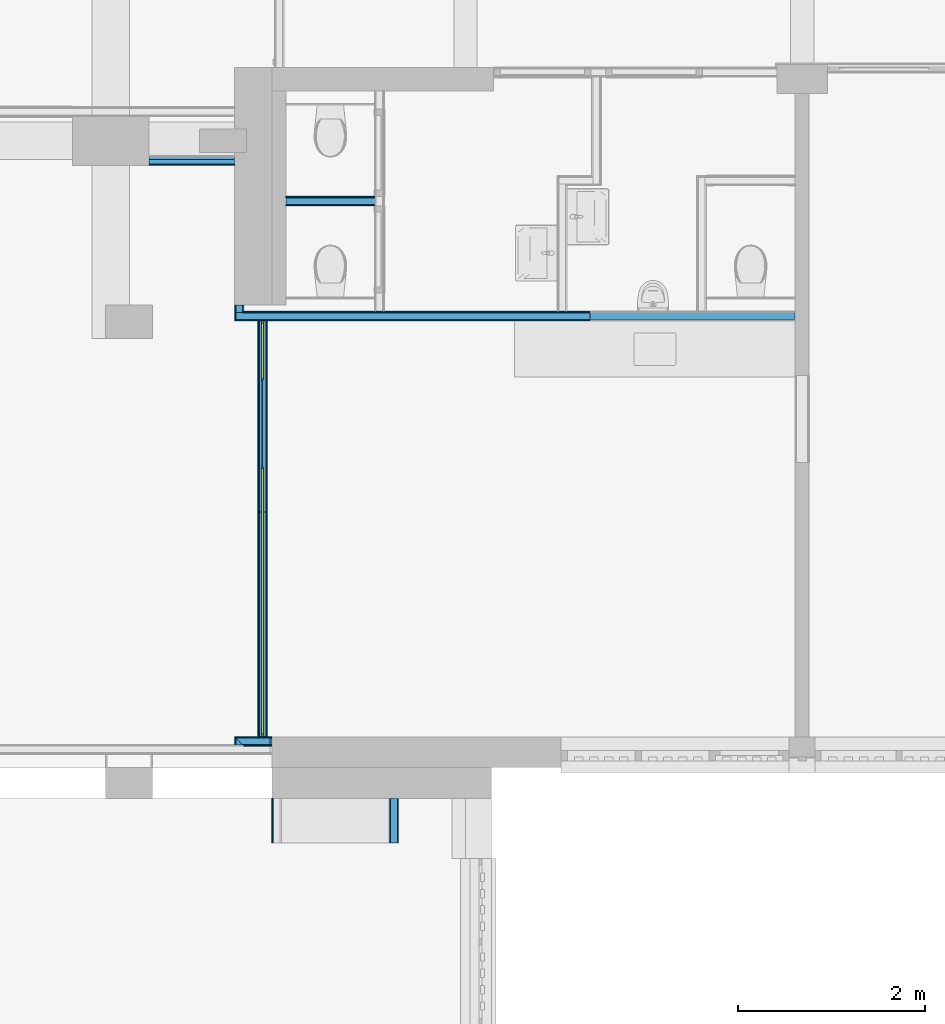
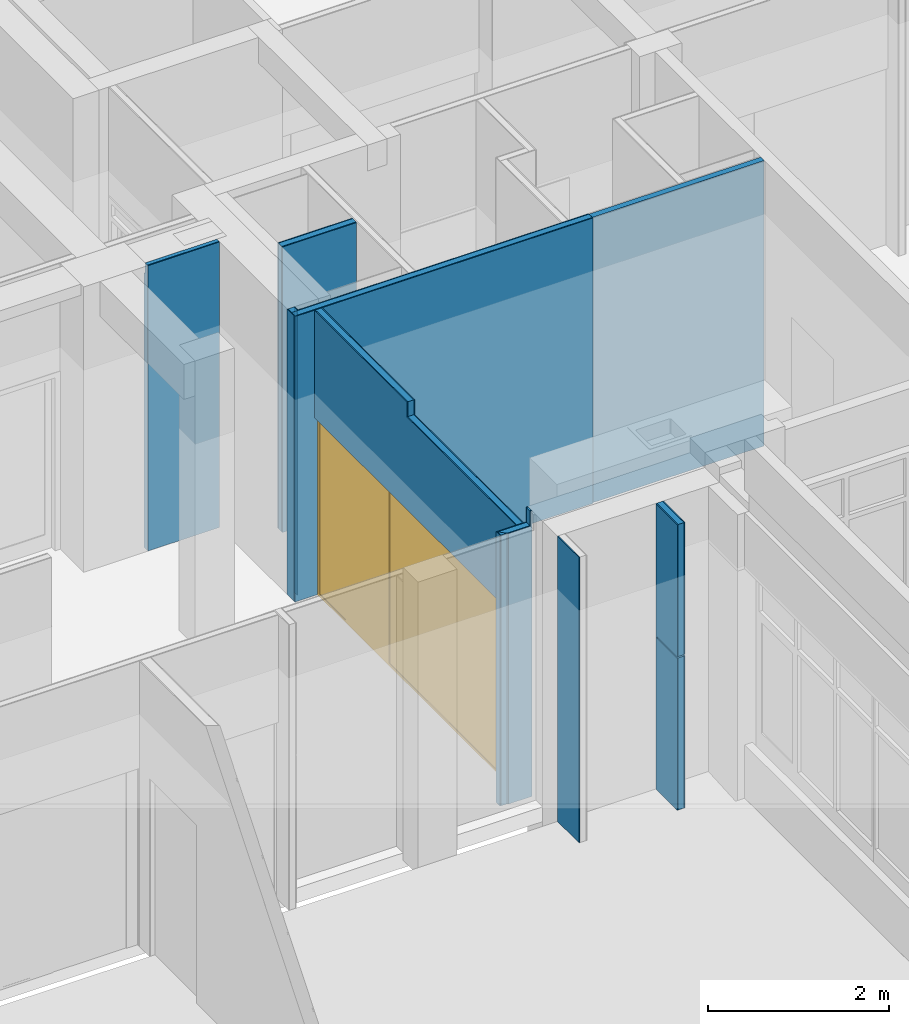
# One storey, part 104 of 135: 24 building element parts, 1 door, 1 opening, 10 elements without a shape of their own.
"""IFC2X3 building model written with IfcOpenShell, lengths in millimetres."""

from ifc_helpers import new_model, entity, si_unit, converted_unit, derived_unit, money_unit, direction, frame, origin_with_axes, place, context, subcontext, project, spatial, open_shell, faceted_brep, surface_model, material, type_object, element, fill, aggregate, save


model = new_model("IFC2X3")

# Units and contexts
model_context = context("Model", 3, precision=0.01, world=origin_with_axes(), true_north=direction((0.0, 1.0)))
body_context = subcontext(model_context, "Body", "Model", "MODEL_VIEW")
ifc_project = project(units=[si_unit("LENGTHUNIT", "METRE", prefix="MILLI"), si_unit("AREAUNIT", "SQUARE_METRE"), si_unit("VOLUMEUNIT", "CUBIC_METRE"), converted_unit("PLANEANGLEUNIT", "DEGREE", entity("IfcPlaneAngleMeasure", 0.0174532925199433), si_unit("PLANEANGLEUNIT", "RADIAN"), dimensions=[0, 0, 0, 0, 0, 0, 0]), money_unit("EUR"), converted_unit("TIMEUNIT", "Year", entity("IfcTimeMeasure", 31557600.0), si_unit("TIMEUNIT", "SECOND"), dimensions=[0, 0, 1, 0, 0, 0, 0]), si_unit("MASSUNIT", "GRAM", prefix="KILO"), si_unit("THERMODYNAMICTEMPERATUREUNIT", "DEGREE_CELSIUS"), si_unit("LUMINOUSINTENSITYUNIT", "LUMEN"), si_unit("ENERGYUNIT", "JOULE", prefix="MEGA"), derived_unit("THERMALCONDUCTANCEUNIT", [(si_unit("POWERUNIT", "WATT"), 1), (si_unit("LENGTHUNIT", "METRE"), -1), (si_unit("THERMODYNAMICTEMPERATUREUNIT", "KELVIN"), -1)]), derived_unit("SPECIFICHEATCAPACITYUNIT", [(si_unit("ENERGYUNIT", "JOULE"), 1), (si_unit("MASSUNIT", "GRAM", prefix="KILO"), -1), (si_unit("THERMODYNAMICTEMPERATUREUNIT", "KELVIN"), -1)]), derived_unit("MASSDENSITYUNIT", [(si_unit("MASSUNIT", "GRAM", prefix="KILO"), 1), (si_unit("VOLUMEUNIT", "CUBIC_METRE"), -1)])], contexts=[model_context])

# Site, building, storey
site_placement = place(None, origin_with_axes())
site = spatial("IfcSite", under=ifc_project, at=site_placement, Name="Site", CompositionType="ELEMENT")
building_placement = place(site_placement, origin_with_axes())
building = spatial("IfcBuilding", under=site, at=building_placement, Name="Naam gebouw", CompositionType="ELEMENT")
storey_placement = place(building_placement, origin_with_axes())
storey = spatial("IfcBuildingStorey", under=building, at=storey_placement, Name="Begane grond N", CompositionType="ELEMENT", Elevation=0.0)

# Door
door_style = type_object("IfcDoorStyle", Name="D1 zl2 27", ConstructionType="NOTDEFINED", OperationType="USERDEFINED", ParameterTakesPrecedence=False, Sizeable=False)
wall_5_placement = place(storey_placement, frame((30229.18709933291, 10990.91242510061, 0.0), z_axis=(0.0, 0.0, 1.0), x_axis=(0.0, 1.0, 0.0)))
opening_placement = place(wall_5_placement, frame((2225.0, 0.0, 0.0), z_axis=(0.0, 0.0, 1.0), x_axis=(1.0, 0.0, 0.0)))
door_placement = place(opening_placement, frame((2225.0, 0.0, 0.0), z_axis=(0.0, 0.0, 1.0), x_axis=(-1.0, 0.0, 0.0)))
door = element("IfcDoor", 1, at=door_placement, inside=storey, type_object=door_style, Name="_Merk-x", ObjectType="DOOR", OverallHeight=2400.0, OverallWidth=4450.0, context=body_context, shape_type="SurfaceModel", body=[
    faceted_brep([(4449.999999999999, 10.00000000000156, 0.0), (4449.999999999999, -9.99999999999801, 0.0), (4420.0, -9.99999999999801, 0.0), (4420.0, 10.00000000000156, 0.0), (4449.999999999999, 10.00000000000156, 2370.0), (4449.999999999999, -9.99999999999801, 2370.0), (4420.0, -9.99999999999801, 2370.0), (4420.0, -9.99999999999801, 30.0), (4420.0, 10.00000000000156, 30.0), (4420.0, 10.00000000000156, 2370.0)], [[[0, 1, 2, 3]], [[4, 5, 1, 0]], [[1, 5, 6, 7, 2]], [[3, 2, 7, 8]], [[0, 3, 8, 9, 4]], [[9, 6, 5, 4]], [[8, 7, 6, 9]]]),
    faceted_brep([(1550.000000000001, -8.999999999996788, 0.0), (1550.000000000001, -9.99999999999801, 0.0), (1550.000000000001, -9.99999999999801, 2370.0), (1550.000000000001, -8.999999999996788, 2370.0), (1567.0, -8.999999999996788, 0.0), (1567.0, 10.00000000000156, 0.0), (1580.0, 10.00000000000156, 0.0), (1580.0, -9.99999999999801, 0.0), (1580.0, -9.99999999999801, 30.00000000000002), (1580.0, -9.99999999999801, 2370.0), (1567.0, -8.999999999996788, 2370.0), (1580.0, 10.00000000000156, 2370.0), (1567.0, 10.00000000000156, 2370.0), (1580.0, 10.00000000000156, 30.00000000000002)], [[[0, 1, 2, 3]], [[4, 5, 6, 7, 1, 0]], [[7, 8, 9, 2, 1]], [[10, 3, 2, 9, 11, 12]], [[10, 4, 0, 3]], [[12, 5, 4, 10]], [[12, 11, 13, 6, 5]], [[6, 13, 8, 7]], [[13, 11, 9, 8]]]),
    faceted_brep([(4420.0, 10.00000000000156, 30.0), (4420.0, -9.99999999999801, 30.0), (4420.0, -9.99999999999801, 0.0), (4420.0, 10.00000000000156, 0.0), (1580.0, 10.00000000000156, 30.0), (1580.0, -9.99999999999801, 30.0), (1580.0, -9.99999999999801, 0.0), (1580.0, 10.00000000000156, 0.0)], [[[0, 1, 2, 3]], [[4, 5, 1, 0]], [[1, 5, 6, 2]], [[3, 2, 6, 7]], [[0, 3, 7, 4]], [[7, 6, 5, 4]]]),
    faceted_brep([(0.0, 10.00000000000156, 0.0), (0.0, -9.99999999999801, 0.0), (0.0, -9.99999999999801, 2370.0), (0.0, 10.00000000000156, 2370.0), (29.99999999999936, 10.00000000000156, 0.0), (29.99999999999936, -9.99999999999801, 0.0), (29.99999999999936, -9.99999999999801, 30.0), (29.99999999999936, -9.99999999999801, 2370.0), (29.99999999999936, 10.00000000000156, 2370.0), (29.99999999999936, 10.00000000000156, 30.0)], [[[0, 1, 2, 3]], [[4, 5, 1, 0]], [[1, 5, 6, 7, 2]], [[3, 2, 7, 8]], [[0, 3, 8, 9, 4]], [[9, 6, 5, 4]], [[8, 7, 6, 9]]]),
    faceted_brep([(633.0000000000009, -8.999999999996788, 2370.0), (633.0000000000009, 10.00000000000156, 2370.0), (620.000000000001, 10.00000000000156, 2370.0), (620.000000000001, -9.99999999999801, 2370.0), (650.0000000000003, -9.99999999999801, 2370.0), (650.0000000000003, -8.999999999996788, 2370.0), (633.0000000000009, -8.999999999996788, 0.0), (633.0000000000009, 10.00000000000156, 0.0), (620.000000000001, 10.00000000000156, 0.0), (620.000000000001, 10.00000000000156, 30.00000000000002), (620.000000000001, -9.99999999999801, 30.00000000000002), (650.0000000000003, -9.99999999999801, 0.0), (620.000000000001, -9.99999999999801, 0.0), (650.0000000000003, -8.999999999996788, 0.0)], [[[0, 1, 2, 3, 4, 5]], [[0, 6, 7, 1]], [[7, 8, 9, 2, 1]], [[2, 9, 10, 3]], [[11, 4, 3, 10, 12]], [[5, 4, 11, 13]], [[5, 13, 6, 0]], [[6, 13, 11, 12, 8, 7]], [[9, 8, 12, 10]]]),
    faceted_brep([(620.000000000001, 10.00000000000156, 30.0), (620.000000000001, -9.99999999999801, 30.0), (620.000000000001, -9.99999999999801, 0.0), (620.000000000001, 10.00000000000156, 0.0), (29.99999999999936, 10.00000000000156, 30.0), (29.99999999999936, -9.99999999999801, 30.0), (29.99999999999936, -9.99999999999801, 0.0), (29.99999999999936, 10.00000000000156, 0.0)], [[[0, 1, 2, 3]], [[4, 5, 1, 0]], [[1, 5, 6, 2]], [[3, 2, 6, 7]], [[0, 3, 7, 4]], [[7, 6, 5, 4]]]),
    faceted_brep([(1567.0, 10.00000000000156, 2387.0), (633.0000000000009, 10.00000000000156, 2387.0), (633.0000000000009, 10.00000000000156, 2370.0), (620.000000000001, 10.00000000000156, 2370.0), (29.99999999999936, 10.00000000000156, 2370.0), (0.0, 10.00000000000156, 2370.0), (0.0, 10.00000000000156, 2400.0), (4449.999999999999, 10.00000000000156, 2400.0), (4449.999999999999, 10.00000000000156, 2370.0), (4420.0, 10.00000000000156, 2370.0), (1580.0, 10.00000000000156, 2370.0), (1567.0, 10.00000000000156, 2370.0), (1567.0, -8.999999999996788, 2387.0), (633.0000000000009, -8.999999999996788, 2387.0), (633.0000000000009, -8.999999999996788, 2370.0), (650.0000000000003, -8.999999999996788, 2370.0), (650.0000000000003, -9.99999999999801, 2370.0), (620.000000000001, -9.99999999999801, 2370.0), (29.99999999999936, -9.99999999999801, 2370.0), (0.0, -9.99999999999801, 2370.0), (0.0, -9.99999999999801, 2400.0), (4449.999999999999, -9.99999999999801, 2400.0), (4449.999999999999, -9.99999999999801, 2370.0), (4420.0, -9.99999999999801, 2370.0), (1580.0, -9.99999999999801, 2370.0), (1567.0, -8.999999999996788, 2370.0), (1550.000000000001, -9.99999999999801, 2370.0)], [[[0, 1, 2, 3, 4, 5, 6, 7, 8, 9, 10, 11]], [[0, 12, 13, 1]], [[1, 13, 14, 2]], [[14, 15, 16, 17, 18, 4, 3, 2]], [[5, 4, 18, 19]], [[6, 5, 19, 20]], [[7, 6, 20, 21]], [[8, 7, 21, 22]], [[9, 8, 22, 23]], [[10, 9, 23, 24]], [[25, 11, 10, 24, 26, 16, 15]], [[11, 25, 12, 0]], [[14, 13, 12, 25, 15]], [[18, 17, 16, 26, 24, 23, 22, 21, 20, 19]]]),
    faceted_brep([(633.0000000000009, 1.000000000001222, 0.0), (1567.0, 1.000000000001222, 0.0), (1567.0, -8.999999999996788, 0.0), (633.0000000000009, -8.999999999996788, 0.0), (633.0000000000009, 1.000000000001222, 2387.0), (1567.0, 1.000000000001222, 2387.0), (1567.0, -9.000000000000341, 2387.0), (633.0000000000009, -8.999999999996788, 2387.0)], [[[0, 1, 2, 3]], [[0, 4, 5, 1]], [[1, 5, 6, 2]], [[3, 2, 6, 7]], [[4, 0, 3, 7]], [[5, 4, 7, 6]]]),
    surface_model("IfcShellBasedSurfaceModel", [(4420.0, 9.000000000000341, 30.0), (1580.0, 9.000000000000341, 30.0), (1580.0, 9.000000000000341, 2370.0), (4420.0, 9.000000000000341, 2370.0)], [open_shell([[[0, 1, 2, 3]]])]),
    surface_model("IfcShellBasedSurfaceModel", [(4420.0, 1.000000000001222, 30.0), (4420.0, 1.000000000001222, 2370.0), (1580.0, 1.000000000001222, 2370.0), (1580.0, 1.000000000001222, 30.0)], [open_shell([[[0, 1, 2, 3]]])]),
    surface_model("IfcShellBasedSurfaceModel", [(619.9999999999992, 9.000000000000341, 30.0), (29.99999999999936, 9.000000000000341, 30.0), (29.99999999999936, 9.000000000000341, 2370.0), (619.9999999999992, 9.000000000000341, 2370.0)], [open_shell([[[0, 1, 2, 3]]])]),
    surface_model("IfcShellBasedSurfaceModel", [(619.9999999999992, 1.000000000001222, 30.0), (619.9999999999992, 1.000000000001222, 2370.0), (29.99999999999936, 1.000000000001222, 2370.0), (29.99999999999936, 1.000000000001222, 30.0)], [open_shell([[[0, 1, 2, 3]]])]),
])

# Wall, building element parts
wall_type = type_object("IfcWallType", Name="Metalstud iso 100 100", PredefinedType="NOTDEFINED")
wall_1_placement = place(storey_placement, frame((29929.18709933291, 10903.41242510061, 0.0), z_axis=(0.0, 0.0, 1.0), x_axis=(0.0, 1.0, 0.0)))
wall_1 = element("IfcWall", 2, at=wall_1_placement, inside=storey, type_object=wall_type, Name="_Wand-x")
ifc_material_1 = material(Name="Gipsplaat")
building_element_part_1_placement = place(wall_1_placement, origin_with_axes())
building_element_part_1 = element("IfcBuildingElementPart", 3, at=building_element_part_1_placement, material=ifc_material_1, Name="Gipsplaat", context=body_context, shape_type="Brep", body=[
    faceted_brep([(87.50000000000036, 1.553979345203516e-05, 3650.0), (74.99999999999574, -12.49999999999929, 3650.0), (74.99999999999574, -12.49999999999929, 0.0), (87.50000000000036, 0.0, 0.0), (0.0, -12.49999999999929, 3650.0), (0.0, 0.0, 3650.0), (0.0, -12.49999999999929, 0.0), (0.0, 0.0, 0.0)], [[[0, 1, 2, 3]], [[4, 1, 0, 5]], [[1, 4, 6, 2]], [[3, 2, 6, 7]], [[5, 0, 3, 7]], [[4, 5, 7, 6]]]),
])
ifc_material_2 = material(Name="Isolatie - Steenwol LSW")
building_element_part_2_placement = place(wall_1_placement, origin_with_axes())
building_element_part_2 = element("IfcBuildingElementPart", 4, at=building_element_part_2_placement, material=ifc_material_2, Name="Isolatie - Steenwol LSW", context=body_context, shape_type="Brep", body=[
    faceted_brep([(74.99999999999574, -12.49999999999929, 3650.0), (1.639129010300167e-05, -87.49998360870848, 3650.0), (1.639129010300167e-05, -87.49998360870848, 0.0), (74.99999999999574, -12.49999999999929, 0.0), (0.0, -12.49999999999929, 3650.0), (0.0, -12.49999999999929, 0.0)], [[[0, 1, 2, 3]], [[4, 1, 0]], [[1, 4, 5, 2]], [[5, 3, 2]], [[4, 0, 3, 5]]]),
])
aggregate(wall_1, [building_element_part_1, building_element_part_2])

wall_2_placement = place(storey_placement, frame((29929.18709933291, 15440.91242510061, 0.0), z_axis=(0.0, 0.0, 1.0), x_axis=(0.0, 1.0, 0.0)))
wall_2 = element("IfcWall", 5, at=wall_2_placement, inside=storey, type_object=wall_type, Name="_Wand-x")
building_element_part_3_placement = place(wall_2_placement, origin_with_axes())
building_element_part_3 = element("IfcBuildingElementPart", 6, at=building_element_part_3_placement, material=ifc_material_1, Name="Gipsplaat", context=body_context, shape_type="Brep", body=[
    faceted_brep([(167.4999999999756, 0.0, 3850.0), (167.4999999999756, -12.49999999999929, 3850.0), (167.4999999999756, -12.49999999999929, 0.0), (167.4999999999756, 0.0, 0.0), (12.49999999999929, -12.49999999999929, 3850.0), (12.49999999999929, 0.0, 3850.0), (12.49999999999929, -12.49999999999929, 0.0), (12.49999999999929, 0.0, 0.0)], [[[0, 1, 2, 3]], [[4, 1, 0, 5]], [[1, 4, 6, 2]], [[7, 3, 2, 6]], [[5, 0, 3, 7]], [[4, 5, 7, 6]]]),
])
building_element_part_4_placement = place(wall_2_placement, origin_with_axes())
building_element_part_4 = element("IfcBuildingElementPart", 7, at=building_element_part_4_placement, material=ifc_material_2, Name="Isolatie - Steenwol LSW", context=body_context, shape_type="Brep", body=[
    faceted_brep([(167.4999999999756, -12.49999999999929, 3850.0), (167.4999999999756, -87.49999999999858, 3850.0), (167.4999999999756, -87.49999999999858, 0.0), (167.4999999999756, -12.49999999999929, 0.0), (87.50000000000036, -87.49999999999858, 3850.0), (87.50000000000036, -12.49999999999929, 3850.0), (87.50000000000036, -87.49999999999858, 0.0), (87.50000000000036, -12.49999999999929, 0.0)], [[[0, 1, 2, 3]], [[4, 1, 0, 5]], [[1, 4, 6, 2]], [[7, 3, 2, 6]], [[5, 0, 3, 7]], [[4, 5, 7, 6]]]),
])
building_element_part_5_placement = place(wall_2_placement, origin_with_axes())
building_element_part_5 = element("IfcBuildingElementPart", 8, at=building_element_part_5_placement, material=ifc_material_1, Name="Gipsplaat", context=body_context, shape_type="Brep", body=[
    faceted_brep([(167.4999999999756, -87.49999999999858, 3850.0), (167.4999999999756, -100.0000000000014, 3850.0), (167.4999999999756, -100.0000000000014, 0.0), (167.4999999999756, -87.49999999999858, 0.0), (99.99999999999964, -100.0000000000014, 3850.0), (99.99999999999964, -87.49999999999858, 3850.0), (99.99999999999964, -100.0000000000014, 0.0), (99.99999999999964, -87.49999999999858, 0.0)], [[[0, 1, 2, 3]], [[4, 1, 0, 5]], [[1, 4, 6, 2]], [[7, 3, 2, 6]], [[5, 0, 3, 7]], [[4, 5, 7, 6]]]),
])
aggregate(wall_2, [building_element_part_3, building_element_part_4, building_element_part_5])

# Wall, building element part
wall_3_placement = place(storey_placement, frame((36000.0, 15440.91242510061, 0.0), z_axis=(0.0, 0.0, 1.0), x_axis=(-1.0, 0.0, 0.0)))
wall_3 = element("IfcWall", 9, at=wall_3_placement, inside=storey, type_object=wall_type, Name="_Wand-x")
building_element_part_6_placement = place(wall_3_placement, origin_with_axes())
building_element_part_6 = element("IfcBuildingElementPart", 10, at=building_element_part_6_placement, material=ifc_material_2, Name="Isolatie - Steenwol LSW", context=body_context, shape_type="Brep", body=[
    faceted_brep([(2266.812900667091, -87.50000000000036, 3850.0), (75.00000000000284, -87.50000000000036, 3850.0), (75.00000000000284, -87.50000000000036, 0.0), (2266.812900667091, -87.50000000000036, 0.0), (75.00000000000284, -12.49999999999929, 3850.0), (2266.812900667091, -12.49999999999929, 3850.0), (75.00000000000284, -12.49999999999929, 0.0), (2266.812900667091, -12.49999999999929, 0.0)], [[[0, 1, 2, 3]], [[4, 1, 0, 5]], [[1, 4, 6, 2]], [[6, 7, 3, 2]], [[5, 0, 3, 7]], [[4, 5, 7, 6]]]),
])
aggregate(wall_3, [building_element_part_6])

# Wall, building element parts
wall_4_placement = place(storey_placement, frame((29015.99999999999, 17103.41242510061, 0.0), z_axis=(0.0, 0.0, 1.0), x_axis=(1.0, 0.0, 0.0)))
wall_4 = element("IfcWall", 11, at=wall_4_placement, inside=storey, type_object=wall_type, Name="_Wand-x")
building_element_part_7_placement = place(wall_4_placement, origin_with_axes())
building_element_part_7 = element("IfcBuildingElementPart", 12, at=building_element_part_7_placement, material=ifc_material_2, Name="Isolatie - Steenwol LSW", context=body_context, shape_type="Brep", body=[
    faceted_brep([(0.0, 87.49999999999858, 0.0), (0.0, 87.49999999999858, 3699.999999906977), (913.1870993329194, 87.49999999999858, 3699.999999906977), (913.1870993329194, 87.49999999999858, 0.0), (0.0, 62.5, 3850.0), (0.0, 62.5, 3699.999999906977), (0.0, 12.49999999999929, 0.0), (0.0, 12.49999999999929, 3850.0), (913.1870993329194, 62.5, 3699.999999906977), (913.1870993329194, 62.5, 3850.0), (913.1870993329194, 12.49999999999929, 3850.0), (913.1870993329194, 12.49999999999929, 0.0)], [[[0, 1, 2, 3]], [[4, 5, 1, 0, 6, 7]], [[5, 8, 2, 1]], [[2, 8, 9, 10, 11, 3]], [[6, 0, 3, 11]], [[5, 4, 9, 8]], [[6, 11, 10, 7]], [[10, 9, 4, 7]]]),
])
building_element_part_8_placement = place(wall_4_placement, origin_with_axes())
building_element_part_8 = element("IfcBuildingElementPart", 13, at=building_element_part_8_placement, material=ifc_material_1, Name="Gipsplaat", context=body_context, shape_type="Brep", body=[
    faceted_brep([(0.0, 12.49999999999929, 0.0), (0.0, 12.49999999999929, 3850.0), (913.1870993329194, 12.49999999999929, 3850.0), (913.1870993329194, 12.49999999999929, 0.0), (0.0, 0.0, 0.0), (0.0, 0.0, 3850.0), (913.1870993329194, 0.0, 3850.0), (913.1870993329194, 0.0, 0.0)], [[[0, 1, 2, 3]], [[4, 5, 1, 0]], [[5, 6, 2, 1]], [[3, 2, 6, 7]], [[0, 3, 7, 4]], [[7, 6, 5, 4]]]),
])
aggregate(wall_4, [building_element_part_7, building_element_part_8])

# Wall, opening
wall_5 = element("IfcWall", 14, at=wall_5_placement, inside=storey, type_object=wall_type, Name="_Wand-x")
opening = element("IfcOpeningElement", 15, at=opening_placement, cuts=wall_5, Name="_Merk-x", context=body_context, shape_type="Brep", body=[
    faceted_brep([(-2225.0, 9.99999999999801, 0.0), (-2225.0, 9.99999999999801, 2400.0), (-2225.0, 51.00000000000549, 2400.0), (-2225.0, 51.00000000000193, 0.0), (-2225.0, -51.00000000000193, 0.0), (-2225.0, -51.00000000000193, 2400.0), (2225.0, 9.99999999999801, 2400.0), (2225.0, 51.00000000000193, 2400.0), (2225.0, -51.00000000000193, 2400.0), (2225.0, 51.00000000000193, 0.0), (2225.0, 9.99999999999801, 0.0), (2225.0, -51.00000000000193, 0.0)], [[[0, 1, 2, 3]], [[1, 0, 4, 5]], [[6, 7, 2, 1, 5, 8]], [[7, 9, 3, 2]], [[0, 3, 9, 10, 11, 4]], [[5, 4, 11, 8]], [[6, 10, 9, 7]], [[10, 6, 8, 11]]]),
])

fill(opening, door)

# Building element part
building_element_part_9_placement = place(wall_5_placement, origin_with_axes())
building_element_part_9 = element("IfcBuildingElementPart", 16, at=building_element_part_9_placement, material=ifc_material_2, Name="Isolatie - Steenwol LSW", context=body_context, shape_type="Brep", body=[
    faceted_brep([(0.0, -37.50000000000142, 2400.0), (4449.999999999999, -37.50000000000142, 2400.0), (4449.999999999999, -37.50000000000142, 3850.0), (2405.00000000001, -37.50000000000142, 3850.0), (2405.00000000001, -37.50000000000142, 3650.0), (0.0, -37.50000000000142, 3650.0), (4449.999999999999, 9.99999999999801, 2400.0), (0.0, 9.99999999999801, 2400.0), (0.0, 37.50000000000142, 2400.0), (4449.999999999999, 37.50000000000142, 2400.0), (4449.999999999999, 37.50000000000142, 3850.0), (2405.00000000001, 37.50000000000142, 3850.0), (2405.00000000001, 37.50000000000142, 3650.0), (0.0, 37.50000000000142, 3650.0)], [[[0, 1, 2, 3, 4, 5]], [[6, 1, 0, 7, 8, 9]], [[1, 6, 9, 10, 2]], [[2, 10, 11, 3]], [[11, 12, 4, 3]], [[12, 13, 5, 4]], [[7, 0, 5, 13, 8]], [[12, 11, 10, 9, 8, 13]]]),
])

building_element_part_10_placement = place(wall_5_placement, origin_with_axes())
building_element_part_10 = element("IfcBuildingElementPart", 17, at=building_element_part_10_placement, material=ifc_material_1, Name="Gipsplaat", context=body_context, shape_type="Brep", body=[
    faceted_brep([(0.0, -50.00000000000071, 2400.0), (4449.999999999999, -50.00000000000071, 2400.0), (4449.999999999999, -50.00000000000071, 3850.0), (2405.00000000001, -50.00000000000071, 3850.0), (2405.00000000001, -50.00000000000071, 3650.0), (0.0, -50.00000000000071, 3650.0), (4449.999999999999, -37.50000000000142, 2400.0), (0.0, -37.50000000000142, 2400.0), (4449.999999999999, -37.50000000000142, 3850.0), (2405.00000000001, -37.50000000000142, 3850.0), (2405.00000000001, -37.50000000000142, 3650.0), (0.0, -37.50000000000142, 3650.0)], [[[0, 1, 2, 3, 4, 5]], [[6, 1, 0, 7]], [[1, 6, 8, 2]], [[3, 2, 8, 9]], [[3, 9, 10, 4]], [[4, 10, 11, 5]], [[7, 0, 5, 11]], [[6, 7, 11, 10, 9, 8]]]),
])

building_element_part_11_placement = place(wall_5_placement, origin_with_axes())
building_element_part_11 = element("IfcBuildingElementPart", 18, at=building_element_part_11_placement, material=ifc_material_1, Name="Gipsplaat", context=body_context, shape_type="Brep", body=[
    faceted_brep([(0.0, 37.50000000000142, 2400.0), (4449.999999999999, 37.50000000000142, 2400.0), (4449.999999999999, 37.50000000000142, 3850.0), (2405.00000000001, 37.50000000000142, 3850.0), (2405.00000000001, 37.50000000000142, 3650.0), (0.0, 37.50000000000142, 3650.0), (4449.999999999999, 50.00000000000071, 2400.0), (0.0, 50.00000000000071, 2400.0), (4449.999999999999, 50.00000000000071, 3850.0), (2405.00000000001, 50.00000000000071, 3850.0), (2405.00000000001, 50.00000000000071, 3650.0), (0.0, 50.00000000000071, 3650.0)], [[[0, 1, 2, 3, 4, 5]], [[6, 1, 0, 7]], [[1, 6, 8, 2]], [[3, 2, 8, 9]], [[3, 9, 10, 4]], [[4, 10, 11, 5]], [[7, 0, 5, 11]], [[6, 7, 11, 10, 9, 8]]]),
])

aggregate(wall_5, [building_element_part_9, building_element_part_10, building_element_part_11])

# Wall, building element parts
wall_6_placement = place(storey_placement, frame((29929.18709933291, 10990.91242510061, 0.0), z_axis=(0.0, 0.0, 1.0), x_axis=(1.0, 0.0, 0.0)))
wall_6 = element("IfcWall", 19, at=wall_6_placement, inside=storey, type_object=wall_type, Name="_Wand-x")
building_element_part_12_placement = place(wall_6_placement, origin_with_axes())
building_element_part_12 = element("IfcBuildingElementPart", 20, at=building_element_part_12_placement, material=ifc_material_1, Name="Gipsplaat", context=body_context, shape_type="Brep", body=[
    faceted_brep([(0.0, 8.514948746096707e-07, 3650.0), (377.8129006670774, 1.639129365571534e-05, 3650.0), (377.8129006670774, 0.0, 3850.0), (399.9999999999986, 0.0, 3850.0), (399.9999999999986, 0.0, 0.0), (0.0, 1.639129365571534e-05, 0.0), (12.49999999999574, -12.49999999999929, 3650.0), (377.8129006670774, -12.49999999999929, 3650.0), (377.8129006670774, -12.49999999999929, 3850.0), (399.9999999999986, -12.49999999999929, 3850.0), (399.9999999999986, -12.49999999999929, 0.0), (12.49999999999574, -12.49999999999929, 0.0)], [[[0, 1, 2, 3, 4, 5]], [[1, 0, 6, 7]], [[8, 2, 1, 7]], [[2, 8, 9, 3]], [[4, 3, 9, 10]], [[10, 11, 5, 4]], [[6, 0, 5, 11]], [[7, 6, 11, 10, 9, 8]]]),
])
building_element_part_13_placement = place(wall_6_placement, origin_with_axes())
building_element_part_13 = element("IfcBuildingElementPart", 21, at=building_element_part_13_placement, material=ifc_material_2, Name="Isolatie - Steenwol LSW", context=body_context, shape_type="Brep", body=[
    faceted_brep([(12.49999999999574, -12.49999999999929, 3650.0), (377.8129006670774, -12.49999999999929, 3650.0), (377.8129006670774, -12.49999999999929, 3850.0), (399.9999999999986, -12.49999999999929, 3850.0), (399.9999999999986, -12.49999999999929, 0.0), (12.49999999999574, -12.49999999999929, 0.0), (87.49998360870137, -87.4999836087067, 3650.0), (377.8129006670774, -87.4999836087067, 3650.0), (377.8129006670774, -87.49999883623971, 3850.0), (399.9999999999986, -87.50000000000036, 3850.0), (399.9999999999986, -87.50000000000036, 0.0), (87.49998360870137, -87.4999836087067, 0.0)], [[[0, 1, 2, 3, 4, 5]], [[1, 0, 6, 7]], [[8, 2, 1, 7]], [[2, 8, 9, 3]], [[4, 3, 9, 10]], [[10, 11, 5, 4]], [[6, 0, 5, 11]], [[7, 6, 11, 10, 9, 8]]]),
])
building_element_part_14_placement = place(wall_6_placement, origin_with_axes())
building_element_part_14 = element("IfcBuildingElementPart", 22, at=building_element_part_14_placement, material=ifc_material_1, Name="Gipsplaat", context=body_context, shape_type="Brep", body=[
    faceted_brep([(87.49998360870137, -87.4999836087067, 3650.0), (377.8129006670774, -87.4999836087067, 3650.0), (377.8129006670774, -87.49999883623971, 3850.0), (399.9999999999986, -87.50000000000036, 3850.0), (399.9999999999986, -87.50000000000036, 0.0), (87.49998360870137, -87.4999836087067, 0.0), (99.99999999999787, -99.99999999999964, 3650.0), (377.8129006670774, -99.99999999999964, 3650.0), (377.8129006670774, -99.99999999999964, 3850.0), (399.9999999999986, -99.99999999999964, 3850.0), (399.9999999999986, -99.99999999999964, 0.0), (99.99999999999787, -99.99999999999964, 0.0)], [[[0, 1, 2, 3, 4, 5]], [[1, 0, 6, 7]], [[8, 2, 1, 7]], [[2, 8, 9, 3]], [[4, 3, 9, 10]], [[10, 11, 5, 4]], [[6, 0, 5, 11]], [[7, 6, 11, 10, 9, 8]]]),
])
aggregate(wall_6, [building_element_part_12, building_element_part_13, building_element_part_14])

wall_7_placement = place(storey_placement, frame((33733.18709933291, 15440.91242510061, 0.0), z_axis=(0.0, 0.0, 1.0), x_axis=(-1.0, 0.0, 0.0)))
wall_7 = element("IfcWall", 23, at=wall_7_placement, inside=storey, type_object=wall_type, Name="_Wand-x")
building_element_part_15_placement = place(wall_7_placement, origin_with_axes())
building_element_part_15 = element("IfcBuildingElementPart", 24, at=building_element_part_15_placement, material=ifc_material_1, Name="Gipsplaat", context=body_context, shape_type="Brep", body=[
    faceted_brep([(3803.999999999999, -12.49999999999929, 3850.0), (0.0, -12.49999999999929, 3850.0), (0.0, -12.49999999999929, 0.0), (3803.999999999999, -12.50000000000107, 0.0), (0.0, 0.0, 3850.0), (3803.999999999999, 0.0, 3850.0), (0.0, 0.0, 0.0), (3803.999999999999, 0.0, 0.0)], [[[0, 1, 2, 3]], [[4, 1, 0, 5]], [[1, 4, 6, 2]], [[7, 3, 2, 6]], [[5, 0, 3, 7]], [[4, 5, 7, 6]]]),
])
building_element_part_16_placement = place(wall_7_placement, origin_with_axes())
building_element_part_16 = element("IfcBuildingElementPart", 25, at=building_element_part_16_placement, material=ifc_material_1, Name="Gipsplaat", context=body_context, shape_type="Brep", body=[
    faceted_brep([(3716.5, -99.99999999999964, 3850.0), (0.0, -99.99999999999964, 3850.0), (0.0, -99.99999999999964, 0.0), (3716.5, -99.99999999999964, 0.0), (0.0, -87.50000000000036, 3850.0), (3716.5, -87.50000000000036, 3850.0), (0.0, -87.50000000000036, 0.0), (3716.5, -87.50000000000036, 0.0)], [[[0, 1, 2, 3]], [[4, 1, 0, 5]], [[1, 4, 6, 2]], [[7, 3, 2, 6]], [[5, 0, 3, 7]], [[4, 5, 7, 6]]]),
])
building_element_part_17_placement = place(wall_7_placement, origin_with_axes())
building_element_part_17 = element("IfcBuildingElementPart", 26, at=building_element_part_17_placement, material=ifc_material_2, Name="Isolatie - Steenwol LSW", context=body_context, shape_type="Brep", body=[
    faceted_brep([(3791.499999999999, -87.50000000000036, 3850.0), (0.0, -87.50000000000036, 3850.0), (0.0, -87.50000000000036, 0.0), (3791.499999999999, -87.50000000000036, 0.0), (0.0, -12.49999999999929, 3850.0), (3791.499999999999, -12.49999999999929, 3850.0), (0.0, -12.49999999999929, 0.0), (3791.499999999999, -12.50000000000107, 0.0)], [[[0, 1, 2, 3]], [[4, 1, 0, 5]], [[1, 4, 6, 2]], [[7, 3, 2, 6]], [[5, 0, 3, 7]], [[4, 5, 7, 6]]]),
])
aggregate(wall_7, [building_element_part_15, building_element_part_16, building_element_part_17])

# Wall, building element part
wall_8_placement = place(storey_placement, frame((30429.59867896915, 10330.91242510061, 0.0), z_axis=(0.0, 0.0, 1.0), x_axis=(0.0, -1.0, 0.0)))
wall_8 = element("IfcWall", 27, at=wall_8_placement, inside=storey, type_object=wall_type, Name="_Wand-x")
building_element_part_18_placement = place(wall_8_placement, origin_with_axes())
building_element_part_18 = element("IfcBuildingElementPart", 28, at=building_element_part_18_placement, material=ifc_material_1, Name="Gipsplaat", context=body_context, shape_type="Brep", body=[
    faceted_brep([(474.9999999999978, -100.0000000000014, 3850.0), (474.9999999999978, -87.49999999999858, 3850.0), (0.0, -87.49999999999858, 3850.0), (0.0, -100.0000000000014, 3850.0), (474.9999999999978, -100.0000000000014, 0.0), (474.9999999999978, -87.49999999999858, 0.0), (0.0, -87.49999999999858, 0.0), (0.0, -100.0000000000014, 0.0)], [[[0, 1, 2, 3]], [[0, 4, 5, 1]], [[1, 5, 6, 2]], [[3, 2, 6, 7]], [[4, 0, 3, 7]], [[5, 4, 7, 6]]]),
])
aggregate(wall_8, [building_element_part_18])

# Wall, building element parts
wall_9_placement = place(storey_placement, frame((30479.18709933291, 16720.91242510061, 0.0), z_axis=(0.0, 0.0, 1.0), x_axis=(1.0, 0.0, 0.0)))
wall_9 = element("IfcWall", 29, at=wall_9_placement, inside=storey, type_object=wall_type, Name="_Wand-x")
building_element_part_19_placement = place(wall_9_placement, origin_with_axes())
building_element_part_19 = element("IfcBuildingElementPart", 30, at=building_element_part_19_placement, material=ifc_material_1, Name="Gipsplaat", context=body_context, shape_type="Brep", body=[
    faceted_brep([(0.0, 50.00000000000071, 3850.0), (949.9999999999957, 50.00000000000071, 3850.0), (949.9999999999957, 50.00000000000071, 0.0), (0.0, 50.00000000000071, 0.0), (949.9999999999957, 37.50000000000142, 3850.0), (0.0, 37.50000000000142, 3850.0), (949.9999999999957, 37.50000000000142, 0.0), (0.0, 37.50000000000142, 0.0)], [[[0, 1, 2, 3]], [[4, 1, 0, 5]], [[1, 4, 6, 2]], [[2, 6, 7, 3]], [[5, 0, 3, 7]], [[4, 5, 7, 6]]]),
])
building_element_part_20_placement = place(wall_9_placement, origin_with_axes())
building_element_part_20 = element("IfcBuildingElementPart", 31, at=building_element_part_20_placement, material=ifc_material_2, Name="Isolatie - Steenwol LSW", context=body_context, shape_type="Brep", body=[
    faceted_brep([(0.0, 37.50000000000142, 3850.0), (949.9999999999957, 37.50000000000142, 3850.0), (949.9999999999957, 37.50000000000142, 0.0), (0.0, 37.50000000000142, 0.0), (949.9999999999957, -37.50000000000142, 3850.0), (0.0, -37.50000000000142, 3850.0), (949.9999999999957, -37.50000000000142, 0.0), (0.0, -37.50000000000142, 0.0)], [[[0, 1, 2, 3]], [[4, 1, 0, 5]], [[1, 4, 6, 2]], [[2, 6, 7, 3]], [[5, 0, 3, 7]], [[4, 5, 7, 6]]]),
])
building_element_part_21_placement = place(wall_9_placement, origin_with_axes())
building_element_part_21 = element("IfcBuildingElementPart", 32, at=building_element_part_21_placement, material=ifc_material_1, Name="Gipsplaat", context=body_context, shape_type="Brep", body=[
    faceted_brep([(0.0, -37.50000000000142, 3850.0), (949.9999999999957, -37.50000000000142, 3850.0), (949.9999999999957, -37.50000000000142, 0.0), (0.0, -37.50000000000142, 0.0), (949.9999999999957, -50.00000000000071, 3850.0), (0.0, -50.00000000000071, 3850.0), (949.9999999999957, -50.00000000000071, 0.0), (0.0, -50.00000000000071, 0.0)], [[[0, 1, 2, 3]], [[4, 1, 0, 5]], [[1, 4, 6, 2]], [[2, 6, 7, 3]], [[5, 0, 3, 7]], [[4, 5, 7, 6]]]),
])
aggregate(wall_9, [building_element_part_19, building_element_part_20, building_element_part_21])

wall_10_placement = place(storey_placement, frame((31683.78577830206, 10330.91242510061, 0.0), z_axis=(0.0, 0.0, 1.0), x_axis=(0.0, -1.0, 0.0)))
wall_10 = element("IfcWall", 33, at=wall_10_placement, inside=storey, type_object=wall_type, Name="_Wand-x")
building_element_part_22_placement = place(wall_10_placement, origin_with_axes())
building_element_part_22 = element("IfcBuildingElementPart", 34, at=building_element_part_22_placement, material=ifc_material_1, Name="Gipsplaat", context=body_context, shape_type="Brep", body=[
    faceted_brep([(24.99999715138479, 0.0, 2049.999999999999), (474.9999971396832, 0.0, 2049.999999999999), (474.9999999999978, 0.0, 0.0), (0.0, 0.0, 0.0), (0.0, 0.0, 3850.0), (474.9999999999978, 0.0, 3850.0), (474.9999971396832, 0.0, 2069.999999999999), (24.99999715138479, 0.0, 2069.999999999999), (24.99999721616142, -12.49999999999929, 2049.999999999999), (474.9999971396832, -12.49999999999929, 2049.999999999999), (474.9999999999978, -12.49999999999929, 0.0), (0.0, -12.49999999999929, 0.0), (0.0, -12.49999999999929, 3850.0), (474.9999999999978, -12.49999999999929, 3850.0), (474.9999971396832, -12.49999999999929, 2069.999999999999), (24.99999721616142, -12.49999999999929, 2069.999999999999)], [[[0, 1, 2, 3, 4, 5, 6, 7]], [[1, 0, 8, 9]], [[1, 9, 10, 2]], [[3, 2, 10, 11]], [[11, 12, 4, 3]], [[12, 13, 5, 4]], [[14, 6, 5, 13]], [[7, 6, 14, 15]], [[0, 7, 15, 8]], [[15, 14, 13, 12, 11, 10, 9, 8]]]),
])
building_element_part_23_placement = place(wall_10_placement, origin_with_axes())
building_element_part_23 = element("IfcBuildingElementPart", 35, at=building_element_part_23_placement, material=ifc_material_2, Name="Isolatie - Steenwol LSW", context=body_context, shape_type="Brep", body=[
    faceted_brep([(24.99999721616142, -12.49999999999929, 2049.999999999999), (474.9999971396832, -12.49999999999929, 2049.999999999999), (474.9999999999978, -12.49999999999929, 0.0), (0.0, -12.49999999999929, 0.0), (0.0, -12.49999999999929, 3850.0), (474.9999999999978, -12.49999999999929, 3850.0), (474.9999971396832, -12.49999999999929, 2069.999999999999), (24.99999721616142, -12.49999999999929, 2069.999999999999), (24.99999760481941, -87.49999999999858, 2049.999999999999), (474.9999971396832, -87.49999999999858, 2049.999999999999), (474.9999999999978, -87.49999999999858, 0.0), (0.0, -87.49999999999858, 0.0), (0.0, -87.49999999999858, 3850.0), (474.9999999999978, -87.49999999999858, 3850.0), (474.9999971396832, -87.49999999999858, 2069.999999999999), (24.99999760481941, -87.49999999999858, 2069.999999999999)], [[[0, 1, 2, 3, 4, 5, 6, 7]], [[1, 0, 8, 9]], [[1, 9, 10, 2]], [[3, 2, 10, 11]], [[11, 12, 4, 3]], [[12, 13, 5, 4]], [[14, 6, 5, 13]], [[7, 6, 14, 15]], [[0, 7, 15, 8]], [[15, 14, 13, 12, 11, 10, 9, 8]]]),
])
building_element_part_24_placement = place(wall_10_placement, origin_with_axes())
building_element_part_24 = element("IfcBuildingElementPart", 36, at=building_element_part_24_placement, material=ifc_material_1, Name="Gipsplaat", context=body_context, shape_type="Brep", body=[
    faceted_brep([(24.99999760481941, -87.49999999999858, 2049.999999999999), (474.9999971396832, -87.49999999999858, 2049.999999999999), (474.9999999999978, -87.49999999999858, 0.0), (0.0, -87.49999999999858, 0.0), (0.0, -87.49999999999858, 3850.0), (474.9999999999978, -87.49999999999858, 3850.0), (474.9999971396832, -87.49999999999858, 2069.999999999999), (24.99999760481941, -87.49999999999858, 2069.999999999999), (24.99999766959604, -100.0000000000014, 2049.999999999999), (474.9999971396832, -100.0000000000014, 2049.999999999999), (474.9999999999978, -100.0000000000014, 0.0), (0.0, -100.0000000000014, 0.0), (0.0, -100.0000000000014, 3850.0), (474.9999999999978, -100.0000000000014, 3850.0), (474.9999971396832, -100.0000000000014, 2069.999999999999), (24.99999766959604, -100.0000000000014, 2069.999999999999)], [[[0, 1, 2, 3, 4, 5, 6, 7]], [[1, 0, 8, 9]], [[1, 9, 10, 2]], [[3, 2, 10, 11]], [[11, 12, 4, 3]], [[12, 13, 5, 4]], [[14, 6, 5, 13]], [[7, 6, 14, 15]], [[0, 7, 15, 8]], [[15, 14, 13, 12, 11, 10, 9, 8]]]),
])
aggregate(wall_10, [building_element_part_22, building_element_part_23, building_element_part_24])

save(model, "model.ifc")
